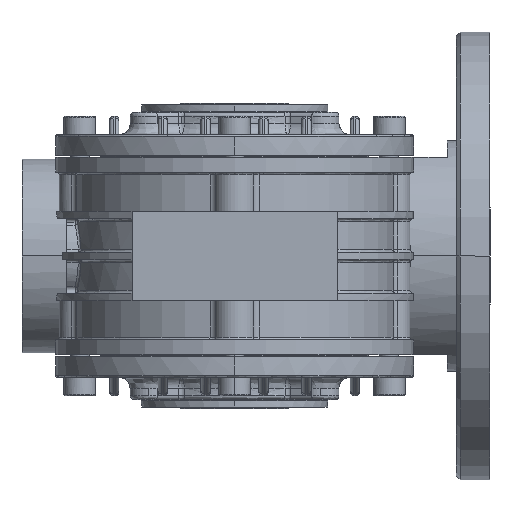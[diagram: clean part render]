
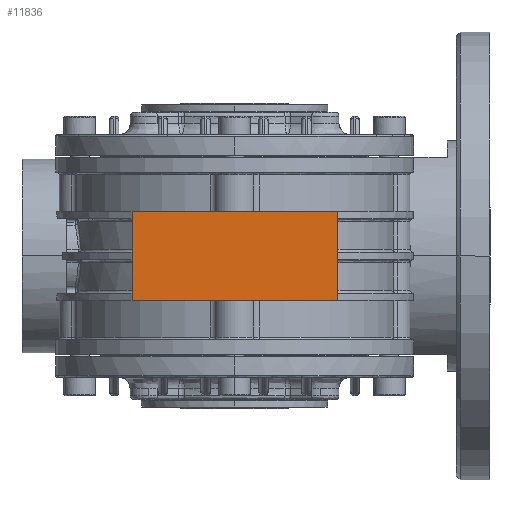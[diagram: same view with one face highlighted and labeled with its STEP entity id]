
A CAD part, front view. The second image highlights one B-rep face of the part: STEP entity #11836.
In plain terms, the highlighted planar face has unit normal (0, -1, 0).
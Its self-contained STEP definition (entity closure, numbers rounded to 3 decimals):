
#8930 = VERTEX_POINT ( 'NONE', #10022 ) ;
#8974 = VERTEX_POINT ( 'NONE', #24342 ) ;
#8976 = EDGE_CURVE ( 'NONE', #8930, #8974, #24336, .T. ) ;
#10022 = CARTESIAN_POINT ( 'NONE',  ( -27.5, -48., 12. ) ) ;
#10361 = DIRECTION ( 'NONE',  ( 1., 0., 0. ) ) ;
#10362 = DIRECTION ( 'NONE',  ( 0., -1., 0. ) ) ;
#10363 = CARTESIAN_POINT ( 'NONE',  ( 0., -48., 0. ) ) ;
#10364 = LINE ( 'NONE', #28840, #28839 ) ;
#10365 = AXIS2_PLACEMENT_3D ( 'NONE', #10363, #10362, #10361 ) ;
#10366 = PLANE ( 'NONE',  #10365 ) ;
#10367 = FACE_OUTER_BOUND ( 'NONE', #11841, .T. ) ;
#10706 = DIRECTION ( 'NONE',  ( 0., 0., 1. ) ) ;
#10707 = VECTOR ( 'NONE', #10706, 1000. ) ;
#10708 = CARTESIAN_POINT ( 'NONE',  ( -27.5, -48., 0. ) ) ;
#10709 = LINE ( 'NONE', #10708, #10707 ) ;
#11836 = ADVANCED_FACE ( 'NONE', ( #10367 ), #10366, .T. ) ;
#11841 = EDGE_LOOP ( 'NONE', ( #11842, #11843, #11844, #11845 ) ) ;
#11842 = ORIENTED_EDGE ( 'NONE', *, *, #8976, .F. ) ;
#11843 = ORIENTED_EDGE ( 'NONE', *, *, #11887, .F. ) ;
#11844 = ORIENTED_EDGE ( 'NONE', *, *, #36439, .F. ) ;
#11845 = ORIENTED_EDGE ( 'NONE', *, *, #11846, .T. ) ;
#11846 = EDGE_CURVE ( 'NONE', #36452, #8974, #10364, .T. ) ;
#11887 = EDGE_CURVE ( 'NONE', #36478, #8930, #10709, .T. ) ;
#24333 = DIRECTION ( 'NONE',  ( 1., 0., 0. ) ) ;
#24334 = VECTOR ( 'NONE', #24333, 1000. ) ;
#24335 = CARTESIAN_POINT ( 'NONE',  ( 0.671, -48., 12. ) ) ;
#24336 = LINE ( 'NONE', #24335, #24334 ) ;
#24342 = CARTESIAN_POINT ( 'NONE',  ( 27.5, -48., 12. ) ) ;
#28839 = VECTOR ( 'NONE', #28846, 1000. ) ;
#28840 = CARTESIAN_POINT ( 'NONE',  ( 27.5, -48., 0. ) ) ;
#28846 = DIRECTION ( 'NONE',  ( 0., 0., 1. ) ) ;
#36439 = EDGE_CURVE ( 'NONE', #36452, #36478, #66002, .T. ) ;
#36452 = VERTEX_POINT ( 'NONE', #66038 ) ;
#36478 = VERTEX_POINT ( 'NONE', #66095 ) ;
#65999 = DIRECTION ( 'NONE',  ( -1., 0., 0. ) ) ;
#66000 = VECTOR ( 'NONE', #65999, 1000. ) ;
#66001 = CARTESIAN_POINT ( 'NONE',  ( 0.671, -48., -12. ) ) ;
#66002 = LINE ( 'NONE', #66001, #66000 ) ;
#66038 = CARTESIAN_POINT ( 'NONE',  ( 27.5, -48., -12. ) ) ;
#66095 = CARTESIAN_POINT ( 'NONE',  ( -27.5, -48., -12. ) ) ;
